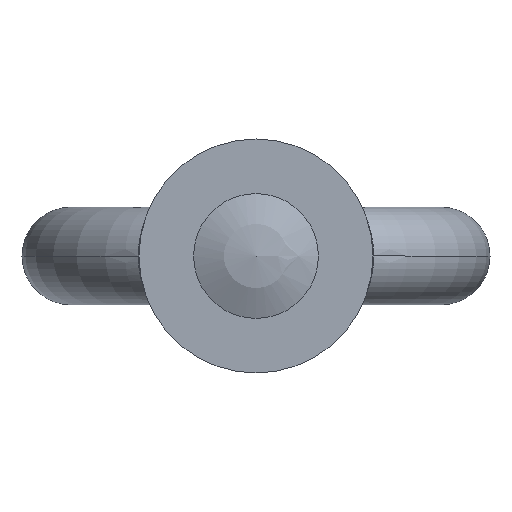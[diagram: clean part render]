
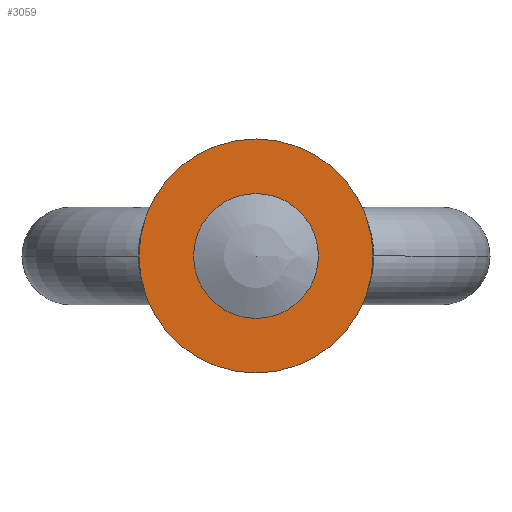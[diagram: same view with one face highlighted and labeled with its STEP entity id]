
A CAD part, front view. The second image highlights one B-rep face of the part: STEP entity #3059.
In plain terms, the highlighted planar face has unit normal (0, -1, 0).
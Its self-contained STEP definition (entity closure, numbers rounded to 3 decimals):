
#114 = VERTEX_POINT ( 'NONE', #7786 ) ;
#311 = EDGE_CURVE ( 'NONE', #1093, #114, #1688, .T. ) ;
#1093 = VERTEX_POINT ( 'NONE', #6627 ) ;
#1657 = CIRCLE ( 'NONE', #1658, 15. ) ;
#1658 = AXIS2_PLACEMENT_3D ( 'NONE', #1659, #1660, #1661 ) ;
#1659 = CARTESIAN_POINT ( 'NONE',  ( 0., -30., 0. ) ) ;
#1660 = DIRECTION ( 'NONE',  ( 0., 1., 0. ) ) ;
#1661 = DIRECTION ( 'NONE',  ( 0., 0., 1. ) ) ;
#1688 = CIRCLE ( 'NONE', #1689, 15. ) ;
#1689 = AXIS2_PLACEMENT_3D ( 'NONE', #1690, #1691, #1692 ) ;
#1690 = CARTESIAN_POINT ( 'NONE',  ( 0., -30., 0. ) ) ;
#1691 = DIRECTION ( 'NONE',  ( 0., 1., 0. ) ) ;
#1692 = DIRECTION ( 'NONE',  ( 0., 0., 1. ) ) ;
#2537 = ORIENTED_EDGE ( 'NONE', *, *, #6086, .T. ) ;
#2846 = EDGE_LOOP ( 'NONE', ( #2537, #6044 ) ) ;
#3059 = ADVANCED_FACE ( 'NONE', ( #5866, #5867 ), #5868, .T. ) ;
#3400 = EDGE_CURVE ( 'NONE', #114, #1093, #1657, .T. ) ;
#3632 = CIRCLE ( 'NONE', #3633, 7.5 ) ;
#3633 = AXIS2_PLACEMENT_3D ( 'NONE', #3634, #3635, #3636 ) ;
#3634 = CARTESIAN_POINT ( 'NONE',  ( 0., -30., 0. ) ) ;
#3635 = DIRECTION ( 'NONE',  ( 0., 1., 0. ) ) ;
#3636 = DIRECTION ( 'NONE',  ( 0., 0., -1. ) ) ;
#5206 = CARTESIAN_POINT ( 'NONE',  ( 0., -30., -7.5 ) ) ;
#5711 = CIRCLE ( 'NONE', #5712, 7.5 ) ;
#5712 = AXIS2_PLACEMENT_3D ( 'NONE', #5713, #5714, #5715 ) ;
#5713 = CARTESIAN_POINT ( 'NONE',  ( 0., -30., 0. ) ) ;
#5714 = DIRECTION ( 'NONE',  ( 0., 1., 0. ) ) ;
#5715 = DIRECTION ( 'NONE',  ( 0., 0., -1. ) ) ;
#5794 = CARTESIAN_POINT ( 'NONE',  ( 0., -30., 7.5 ) ) ;
#5866 = FACE_BOUND ( 'NONE', #2846, .T. ) ;
#5867 = FACE_OUTER_BOUND ( 'NONE', #6035, .T. ) ;
#5868 = PLANE ( 'NONE',  #5869 ) ;
#5869 = AXIS2_PLACEMENT_3D ( 'NONE', #5870, #5871, #5873 ) ;
#5870 = CARTESIAN_POINT ( 'NONE',  ( -15., -30., 0. ) ) ;
#5871 = DIRECTION ( 'NONE',  ( 0., -1., 0. ) ) ;
#5873 = DIRECTION ( 'NONE',  ( 0., 0., -1. ) ) ;
#6026 = ORIENTED_EDGE ( 'NONE', *, *, #3400, .F. ) ;
#6035 = EDGE_LOOP ( 'NONE', ( #6026, #7925 ) ) ;
#6039 = VERTEX_POINT ( 'NONE', #5206 ) ;
#6040 = EDGE_CURVE ( 'NONE', #6041, #6039, #5711, .T. ) ;
#6041 = VERTEX_POINT ( 'NONE', #5794 ) ;
#6044 = ORIENTED_EDGE ( 'NONE', *, *, #6040, .T. ) ;
#6086 = EDGE_CURVE ( 'NONE', #6039, #6041, #3632, .T. ) ;
#6627 = CARTESIAN_POINT ( 'NONE',  ( 0., -30., 15. ) ) ;
#7786 = CARTESIAN_POINT ( 'NONE',  ( 0., -30., -15. ) ) ;
#7925 = ORIENTED_EDGE ( 'NONE', *, *, #311, .F. ) ;
